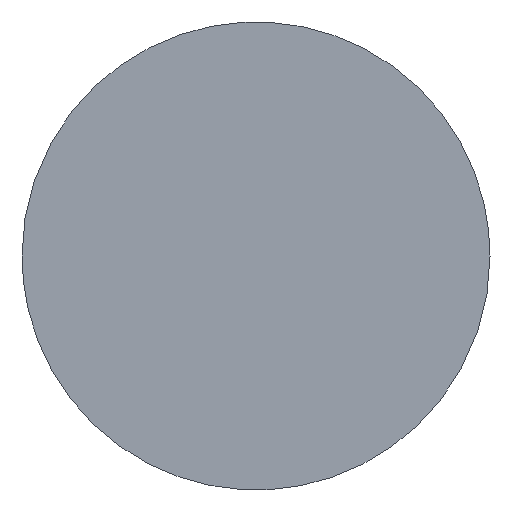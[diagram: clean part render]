
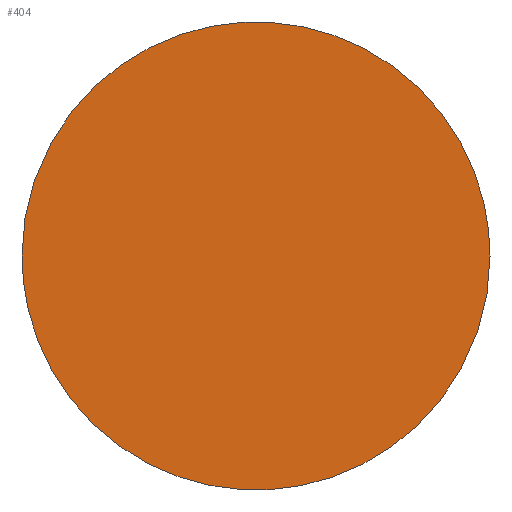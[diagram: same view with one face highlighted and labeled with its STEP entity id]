
A CAD part, top view. The second image highlights one B-rep face of the part: STEP entity #404.
In plain terms, the highlighted planar face has unit normal (0, 0, 1).
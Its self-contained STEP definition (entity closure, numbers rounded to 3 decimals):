
#404=ADVANCED_FACE('',(#728),#4022,.T.);
#728=FACE_OUTER_BOUND('',#1078,.T.);
#1078=EDGE_LOOP('',(#1577,#1578));
#1577=ORIENTED_EDGE('',*,*,#2948,.F.);
#1578=ORIENTED_EDGE('',*,*,#2880,.F.);
#2880=EDGE_CURVE('',#3578,#3622,#4616,.T.);
#2948=EDGE_CURVE('',#3622,#3578,#4684,.T.);
#3578=VERTEX_POINT('',#7245);
#3622=VERTEX_POINT('',#7289);
#4022=PLANE('',#5618);
#4616=(
BOUNDED_CURVE()
B_SPLINE_CURVE(3,(#7332,#7333,#7334,#7335,#7336,#7337,#7338,#7339,#7340,
#7341,#7342,#7343,#7344,#7345,#7346,#7347,#7348,#7349,#7350,#7351,#7352,
#7353,#7354,#7355,#7356,#7357,#7358,#7359,#7360,#7361,#7362,#7363,#7364,
#7365,#7366,#7367,#7368),.UNSPECIFIED.,.F.,.F.)
B_SPLINE_CURVE_WITH_KNOTS((4,1,1,1,1,1,1,1,1,1,1,1,1,1,1,1,3,1,1,1,1,1,
1,1,1,1,1,1,1,1,1,1,4),(0.,54.895,109.789,167.982,
226.175,286.796,347.416,409.328,471.239,
533.15,595.062,655.682,716.302,774.495,
832.688,887.583,942.478,997.373,1052.267,
1110.46,1168.653,1229.274,1289.894,1351.805,
1413.717,1475.628,1537.539,1598.16,1658.78,
1716.973,1775.166,1830.061,1884.956),
 .UNSPECIFIED.)
CURVE()
GEOMETRIC_REPRESENTATION_ITEM()
RATIONAL_B_SPLINE_CURVE((1.,0.989,0.967,0.938,
0.913,0.892,0.875,0.863,
0.855,0.853,0.855,0.863,
0.875,0.892,0.913,0.938,
0.967,0.989,1.,0.989,0.967,
0.938,0.913,0.892,0.875,
0.863,0.855,0.853,0.855,
0.863,0.875,0.892,0.913,
0.938,0.967,0.989,1.))
REPRESENTATION_ITEM('')
);
#4684=(
BOUNDED_CURVE()
B_SPLINE_CURVE(3,(#7761,#7762,#7763,#7764,#7765,#7766,#7767,#7768,#7769,
#7770,#7771,#7772,#7773,#7774,#7775,#7776,#7777,#7778,#7779,#7780,#7781,
#7782,#7783,#7784,#7785,#7786,#7787,#7788,#7789,#7790,#7791,#7792,#7793,
#7794,#7795,#7796),.UNSPECIFIED.,.F.,.F.)
B_SPLINE_CURVE_WITH_KNOTS((4,1,1,1,1,1,1,1,1,1,1,1,1,1,1,1,3,1,1,1,1,1,
1,1,1,1,1,1,1,1,1,4),(1884.956,1939.85,1994.745,
2052.938,2111.131,2171.751,2232.372,2294.283,
2356.194,2418.106,2480.017,2540.638,2601.258,
2659.451,2717.644,2772.539,2827.433,2882.328,
2937.223,2995.416,3053.609,3114.229,3174.85,
3236.761,3298.672,3360.584,3422.495,3483.115,
3543.736,3601.929,3660.122,3769.911),
 .UNSPECIFIED.)
CURVE()
GEOMETRIC_REPRESENTATION_ITEM()
RATIONAL_B_SPLINE_CURVE((1.,0.989,0.967,0.938,
0.913,0.892,0.875,0.863,
0.855,0.853,0.855,0.863,
0.875,0.892,0.913,0.938,
0.967,0.989,1.,0.989,0.967,
0.938,0.913,0.892,0.875,
0.863,0.855,0.853,0.855,
0.863,0.875,0.892,0.913,
0.947,0.977,1.))
REPRESENTATION_ITEM('')
);
#5618=AXIS2_PLACEMENT_3D('',#6531,#5696,$);
#5696=DIRECTION('',(0.,0.,1.));
#6531=CARTESIAN_POINT('',(-6085.925,6120.196,7412.916));
#7245=CARTESIAN_POINT('',(6034.079,0.194,7412.916));
#7289=CARTESIAN_POINT('',(-5965.925,0.194,7412.916));
#7332=CARTESIAN_POINT('',(6034.079,0.194,7412.916));
#7333=CARTESIAN_POINT('',(6034.079,-166.443,7412.916));
#7334=CARTESIAN_POINT('',(6020.049,-504.978,7412.916));
#7335=CARTESIAN_POINT('',(5953.249,-1030.116,7412.916));
#7336=CARTESIAN_POINT('',(5833.762,-1572.491,7412.916));
#7337=CARTESIAN_POINT('',(5652.886,-2132.606,7412.916));
#7338=CARTESIAN_POINT('',(5408.704,-2691.096,7412.916));
#7339=CARTESIAN_POINT('',(5096.57,-3241.324,7412.916));
#7340=CARTESIAN_POINT('',(4720.854,-3764.874,7412.916));
#7341=CARTESIAN_POINT('',(4285.104,-4250.832,7412.916));
#7342=CARTESIAN_POINT('',(3799.146,-4686.582,7412.916));
#7343=CARTESIAN_POINT('',(3275.595,-5062.299,7412.916));
#7344=CARTESIAN_POINT('',(2725.367,-5374.433,7412.916));
#7345=CARTESIAN_POINT('',(2166.878,-5618.615,7412.916));
#7346=CARTESIAN_POINT('',(1606.762,-5799.49,7412.916));
#7347=CARTESIAN_POINT('',(1064.387,-5918.978,7412.916));
#7348=CARTESIAN_POINT('',(539.249,-5985.778,7412.916));
#7349=CARTESIAN_POINT('',(200.714,-5999.808,7412.916));
#7350=CARTESIAN_POINT('',(34.077,-5999.808,7412.916));
#7351=CARTESIAN_POINT('',(-132.56,-5999.808,7412.916));
#7352=CARTESIAN_POINT('',(-471.095,-5985.778,7412.916));
#7353=CARTESIAN_POINT('',(-996.233,-5918.978,7412.916));
#7354=CARTESIAN_POINT('',(-1538.608,-5799.49,7412.916));
#7355=CARTESIAN_POINT('',(-2098.723,-5618.615,7412.916));
#7356=CARTESIAN_POINT('',(-2657.213,-5374.433,7412.916));
#7357=CARTESIAN_POINT('',(-3207.441,-5062.299,7412.916));
#7358=CARTESIAN_POINT('',(-3730.991,-4686.582,7412.916));
#7359=CARTESIAN_POINT('',(-4216.95,-4250.832,7412.916));
#7360=CARTESIAN_POINT('',(-4652.699,-3764.874,7412.916));
#7361=CARTESIAN_POINT('',(-5028.416,-3241.324,7412.916));
#7362=CARTESIAN_POINT('',(-5340.55,-2691.096,7412.916));
#7363=CARTESIAN_POINT('',(-5584.732,-2132.606,7412.916));
#7364=CARTESIAN_POINT('',(-5765.608,-1572.491,7412.916));
#7365=CARTESIAN_POINT('',(-5885.095,-1030.116,7412.916));
#7366=CARTESIAN_POINT('',(-5951.895,-504.978,7412.916));
#7367=CARTESIAN_POINT('',(-5965.925,-166.443,7412.916));
#7368=CARTESIAN_POINT('',(-5965.925,0.194,7412.916));
#7761=CARTESIAN_POINT('',(-5965.925,0.194,7412.916));
#7762=CARTESIAN_POINT('',(-5965.925,166.832,7412.916));
#7763=CARTESIAN_POINT('',(-5951.895,505.367,7412.916));
#7764=CARTESIAN_POINT('',(-5885.095,1030.504,7412.916));
#7765=CARTESIAN_POINT('',(-5765.608,1572.88,7412.916));
#7766=CARTESIAN_POINT('',(-5584.732,2132.995,7412.916));
#7767=CARTESIAN_POINT('',(-5340.55,2691.484,7412.916));
#7768=CARTESIAN_POINT('',(-5028.416,3241.712,7412.916));
#7769=CARTESIAN_POINT('',(-4652.699,3765.263,7412.916));
#7770=CARTESIAN_POINT('',(-4216.95,4251.221,7412.916));
#7771=CARTESIAN_POINT('',(-3730.991,4686.971,7412.916));
#7772=CARTESIAN_POINT('',(-3207.441,5062.687,7412.916));
#7773=CARTESIAN_POINT('',(-2657.213,5374.821,7412.916));
#7774=CARTESIAN_POINT('',(-2098.723,5619.003,7412.916));
#7775=CARTESIAN_POINT('',(-1538.608,5799.879,7412.916));
#7776=CARTESIAN_POINT('',(-996.233,5919.366,7412.916));
#7777=CARTESIAN_POINT('',(-471.095,5986.166,7412.916));
#7778=CARTESIAN_POINT('',(-132.56,6000.196,7412.916));
#7779=CARTESIAN_POINT('',(34.077,6000.196,7412.916));
#7780=CARTESIAN_POINT('',(200.714,6000.196,7412.916));
#7781=CARTESIAN_POINT('',(539.249,5986.166,7412.916));
#7782=CARTESIAN_POINT('',(1064.387,5919.366,7412.916));
#7783=CARTESIAN_POINT('',(1606.762,5799.879,7412.916));
#7784=CARTESIAN_POINT('',(2166.878,5619.003,7412.916));
#7785=CARTESIAN_POINT('',(2725.367,5374.821,7412.916));
#7786=CARTESIAN_POINT('',(3275.595,5062.687,7412.916));
#7787=CARTESIAN_POINT('',(3799.146,4686.971,7412.916));
#7788=CARTESIAN_POINT('',(4285.104,4251.221,7412.916));
#7789=CARTESIAN_POINT('',(4720.854,3765.263,7412.916));
#7790=CARTESIAN_POINT('',(5096.57,3241.712,7412.916));
#7791=CARTESIAN_POINT('',(5408.704,2691.484,7412.916));
#7792=CARTESIAN_POINT('',(5652.886,2132.995,7412.916));
#7793=CARTESIAN_POINT('',(5833.762,1572.88,7412.916));
#7794=CARTESIAN_POINT('',(5990.207,862.745,7412.916));
#7795=CARTESIAN_POINT('',(6034.079,337.347,7412.916));
#7796=CARTESIAN_POINT('',(6034.079,0.194,7412.916));
